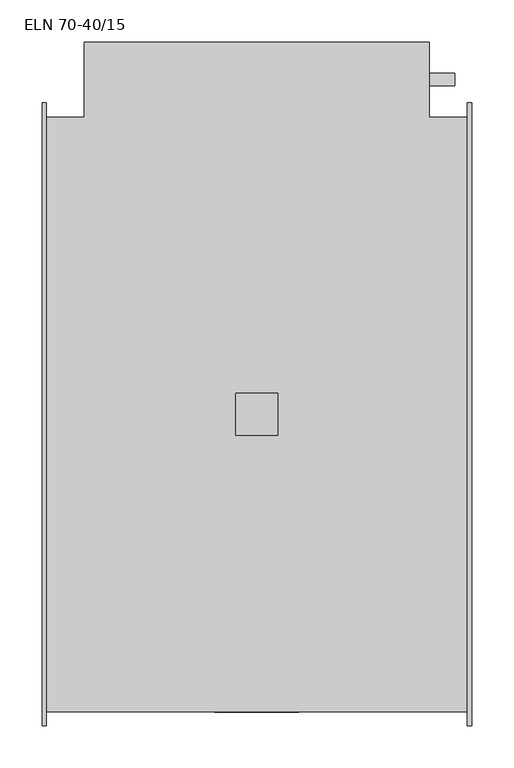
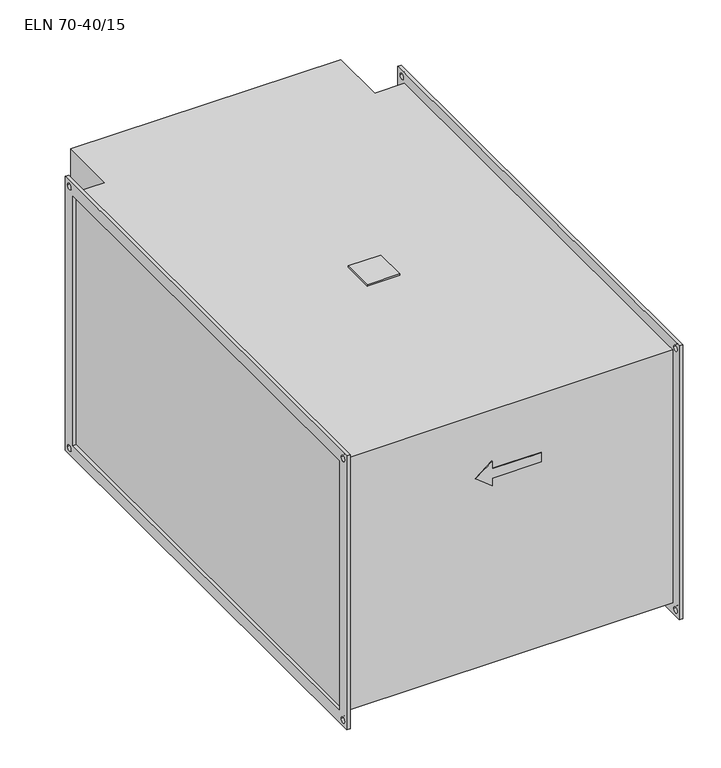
"""IFC4 building model written with IfcOpenShell, lengths in millimetres: proxy geometry, KORF_Нагреватель_Электрический_ELN : ELN 70-40/15."""

import ifcopenshell
import ifcopenshell.guid

model = None  # the IFC model being written
_history = None  # IfcOwnerHistory: only IFC2X3 demands one
_inside = {}  # id of a spatial element -> (the spatial element, [elements in it])
_under = {}  # id of a project, library or spatial element -> (it, [spatial elements below it])
_declared = {}  # id of a project -> (the project, [libraries it declares])
_typed = {}  # id of a type object -> (the type object, [elements of that type])
_made_of = {}  # id of a material, layer set ... -> (it, [elements and type objects made of it])


def new_model(schema):
    """Start an empty IFC model of exactly this schema.

    Asked for "IFC4X3", IfcOpenShell would pick the latest addendum, in which some entities
    have other attributes; the version numbers below select the first issue.
    IFC2X3 requires an IfcOwnerHistory on every rooted entity: one is made here for all.
    """
    global model, _history
    if schema == "IFC4X3":
        model = ifcopenshell.file(schema_version=(4, 3, 0, 0))
    else:
        model = ifcopenshell.file(schema=schema)
    _inside.clear()
    _under.clear()
    _declared.clear()
    _typed.clear()
    _made_of.clear()
    _history = None
    if model.schema == "IFC2X3":
        org = make("IfcOrganization", Name="unknown")
        user = make(
            "IfcPersonAndOrganization",
            ThePerson=make("IfcPerson", FamilyName="unknown"),
            TheOrganization=org,
        )
        app = make(
            "IfcApplication",
            ApplicationDeveloper=org,
            Version="unknown",
            ApplicationFullName="unknown",
            ApplicationIdentifier="unknown",
        )
        _history = make(
            "IfcOwnerHistory",
            OwningUser=user,
            OwningApplication=app,
            ChangeAction="ADDED",
            CreationDate=0,
        )
    return model


def make(cls, **values):
    """One entity of the class cls with the attributes given. An attribute that is None is left unset."""
    return model.create_entity(
        cls, **{name: value for name, value in values.items() if value is not None}
    )


def rooted(cls, **values):
    """An entity with a GlobalId (a new one), such as an element, a storey or a relation."""
    return make(cls, GlobalId=ifcopenshell.guid.new(), OwnerHistory=_history, **values)


def si_unit(unit_type, name, prefix=None):
    """IfcSIUnit, for example si_unit("LENGTHUNIT", "METRE", prefix="MILLI")."""
    return make("IfcSIUnit", UnitType=unit_type, Prefix=prefix, Name=name)


def assignment(units):
    """IfcUnitAssignment: the units of a project."""
    return None if units is None else make("IfcUnitAssignment", Units=units)


def point(xyz):
    """IfcCartesianPoint."""
    return None if xyz is None else make("IfcCartesianPoint", Coordinates=xyz)


def direction(xyz):
    """IfcDirection."""
    return None if xyz is None else make("IfcDirection", DirectionRatios=xyz)


def frame(location, z_axis=None, x_axis=None):
    """IfcAxis2Placement3D, a coordinate frame: its origin and axes. An axis left out is left unset."""
    return make(
        "IfcAxis2Placement3D",
        Location=point(location),
        Axis=direction(z_axis),
        RefDirection=direction(x_axis),
    )


def frame_2d(location, x_axis=None):
    """IfcAxis2Placement2D, a coordinate frame in the plane: its origin and x axis."""
    return make(
        "IfcAxis2Placement2D", Location=point(location), RefDirection=direction(x_axis)
    )


def origin():
    """The frame at (0, 0, 0) with its axes left unset."""
    return frame((0.0, 0.0, 0.0))


def place(relative_to, where):
    """IfcLocalPlacement: puts the frame where relative to a parent placement (None: the world)."""
    return make(
        "IfcLocalPlacement", PlacementRelTo=relative_to, RelativePlacement=where
    )


def context(
    kind, dimensions, precision=None, world=None, true_north=None, identifier=None
):
    """IfcGeometricRepresentationContext, for example the 3D "Model" context."""
    return make(
        "IfcGeometricRepresentationContext",
        ContextIdentifier=identifier,
        ContextType=kind,
        CoordinateSpaceDimension=dimensions,
        Precision=precision,
        WorldCoordinateSystem=world,
        TrueNorth=true_north,
    )


def project(units=None, contexts=None):
    """IfcProject with its units and contexts."""
    return rooted(
        "IfcProject",
        Name="project",
        RepresentationContexts=contexts,
        UnitsInContext=assignment(units),
    )


def spatial(cls, under=None, at=None, **own):
    """A site, building, storey or space (cls), placed at a placement, below another one or the project."""
    s = rooted(cls, ObjectPlacement=at, **own)
    if under is not None:
        _under.setdefault(under.id(), (under, []))[1].append(s)
    return s


def polyline(points):
    """IfcPolyline through the points."""
    return make("IfcPolyline", Points=[point(p) for p in points])


def circle_curve(where, radius):
    """IfcCircle in the frame where."""
    return make("IfcCircle", Position=where, Radius=radius)


def trimmed(basis, trim1, trim2, sense, master):
    """IfcTrimmedCurve: the piece of a basis curve between two trims."""
    return make(
        "IfcTrimmedCurve",
        BasisCurve=basis,
        Trim1=trim1,
        Trim2=trim2,
        SenseAgreement=sense,
        MasterRepresentation=master,
    )


def segment(curve, same_sense, transition):
    """IfcCompositeCurveSegment."""
    return make(
        "IfcCompositeCurveSegment",
        Transition=transition,
        SameSense=same_sense,
        ParentCurve=curve,
    )


def composite_curve(segments, self_intersect=None):
    """IfcCompositeCurve: segments joined end to end."""
    return make("IfcCompositeCurve", Segments=segments, SelfIntersect=self_intersect)


def outline(outer, holes=None, kind="AREA"):
    """IfcArbitraryClosedProfileDef: a profile drawn as a closed curve; with holes, ...WithVoids."""
    if holes is None:
        return make("IfcArbitraryClosedProfileDef", ProfileType=kind, OuterCurve=outer)
    return make(
        "IfcArbitraryProfileDefWithVoids",
        ProfileType=kind,
        OuterCurve=outer,
        InnerCurves=holes,
    )


def extrude(swept, where, along, depth):
    """IfcExtrudedAreaSolid: the profile swept, set in the frame where, extruded along a direction by depth."""
    return make(
        "IfcExtrudedAreaSolid",
        SweptArea=swept,
        Position=where,
        ExtrudedDirection=direction(along),
        Depth=depth,
    )


def shape(context_of_items, identifier, shape_type, items):
    """IfcShapeRepresentation: the items that make up one representation, for example the "Body"."""
    return make(
        "IfcShapeRepresentation",
        ContextOfItems=context_of_items,
        RepresentationIdentifier=identifier,
        RepresentationType=shape_type,
        Items=items,
    )


def source(mapping_origin, context_of_items, identifier, shape_type, items):
    """IfcRepresentationMap: a shape defined once, which mapped items show again and again."""
    return make(
        "IfcRepresentationMap",
        MappingOrigin=mapping_origin,
        MappedRepresentation=shape(context_of_items, identifier, shape_type, items),
    )


def transform(
    local_origin,
    x_axis=None,
    y_axis=None,
    z_axis=None,
    scale=None,
    scale2=None,
    scale3=None,
    uniform=True,
):
    """IfcCartesianTransformationOperator3D, or its non-uniform kind. x_axis, y_axis, z_axis: its Axis1, 2, 3."""
    if uniform:
        return make(
            "IfcCartesianTransformationOperator3D",
            Axis1=direction(x_axis),
            Axis2=direction(y_axis),
            LocalOrigin=point(local_origin),
            Scale=scale,
            Axis3=direction(z_axis),
        )
    return make(
        "IfcCartesianTransformationOperator3DnonUniform",
        Axis1=direction(x_axis),
        Axis2=direction(y_axis),
        LocalOrigin=point(local_origin),
        Scale=scale,
        Axis3=direction(z_axis),
        Scale2=scale2,
        Scale3=scale3,
    )


def mapped(mapping_source, mapping_target):
    """IfcMappedItem: shows the shape of a source again, moved by a transform."""
    return make(
        "IfcMappedItem", MappingSource=mapping_source, MappingTarget=mapping_target
    )


def made_of(thing, what):
    """Note that an element or type object is made of a material, layer set ...; save() writes the relation."""
    if what is not None:
        _made_of.setdefault(what.id(), (what, []))[1].append(thing)
    return thing


def element(
    cls,
    number,
    at=None,
    inside=None,
    cuts=None,
    type_object=None,
    material=None,
    context=None,
    identifier="Body",
    shape_type=None,
    held_by="IfcProductDefinitionShape",
    body=None,
    shapes=None,
    **own,
):
    """One element of the class cls, such as IfcWall. Its Tag is "e" and its number.

    at: its placement. inside: the storey or other place that contains it. cuts: it is an
    opening in that element (IfcRelVoidsElement). A single representation is given by context,
    identifier, shape_type and body (its items); several are given by shapes. held_by: the class
    of the entity that holds the representations. save() writes the other relations.
    """
    e = rooted(cls, Tag="e%d" % number, ObjectPlacement=at, **own)
    if body is not None:
        shapes = [shape(context, identifier, shape_type, body)]
    if shapes is not None:
        e.Representation = make(held_by, Representations=shapes)
    if inside is not None:
        _inside.setdefault(inside.id(), (inside, []))[1].append(e)
    if cuts is not None:
        rooted(
            "IfcRelVoidsElement", RelatingBuildingElement=cuts, RelatedOpeningElement=e
        )
    if type_object is not None:
        _typed.setdefault(type_object.id(), (type_object, []))[1].append(e)
    return made_of(e, material)


def aggregate(whole, parts):
    """IfcRelAggregates: a whole, such as a stair, and the parts it consists of."""
    return rooted("IfcRelAggregates", RelatingObject=whole, RelatedObjects=parts)


def save(model, path):
    """Write the relations noted so far, then the file.

    IfcRelAggregates (storeys below a building ...), IfcRelContainedInSpatialStructure (elements
    in a storey), IfcRelDefinesByType, IfcRelAssociatesMaterial and IfcRelDeclares: one each for
    every whole, place, type object, material and project.
    """
    for whole, parts in _under.values():
        aggregate(whole, parts)
    for where, things in _inside.values():
        rooted(
            "IfcRelContainedInSpatialStructure",
            RelatedElements=things,
            RelatingStructure=where,
        )
    for kind, things in _typed.values():
        rooted("IfcRelDefinesByType", RelatedObjects=things, RelatingType=kind)
    for what, things in _made_of.values():
        rooted("IfcRelAssociatesMaterial", RelatedObjects=things, RelatingMaterial=what)
    for by, libraries in _declared.values():
        rooted("IfcRelDeclares", RelatingContext=by, RelatedDefinitions=libraries)
    model.write(path)


def eln_70_40_15_d8b5ab56(model_context):
    return source(origin(), model_context, "Body", "SweptSolid", [
        extrude(outline(polyline([(230.0, -25.0), (230.0, 25.0), (280.0, 25.0), (280.0, -25.0), (230.0, -25.0)])), frame((0.0, 0.0, 203.0), z_axis=(0.0, 0.0, 1.0), x_axis=(1.0, 0.0, 0.0)), (0.0, 0.0, 1.0), 2.0),
        extrude(outline(composite_curve([segment(trimmed(circle_curve(frame_2d((397.5, -101.5)), 7.5), [point((390.0, -101.5))], [point((405.0, -101.5))], False, "CARTESIAN"), True, "CONTINUOUS"), segment(trimmed(circle_curve(frame_2d((397.5, -101.5)), 7.5), [point((405.0, -101.5))], [point((390.0, -101.5))], False, "CARTESIAN"), True, "CONTINUOUS")], self_intersect=False)), frame((460.0, 0.0, 0.0), z_axis=(1.0, 0.0, 0.0), x_axis=(0.0, 1.0, 0.0)), (0.0, 0.0, 1.0), 30.0),
        extrude(outline(composite_curve([segment(trimmed(circle_curve(frame_2d((397.5, -81.5)), 7.5), [point((390.0, -81.5))], [point((405.0, -81.5))], False, "CARTESIAN"), True, "CONTINUOUS"), segment(trimmed(circle_curve(frame_2d((397.5, -81.5)), 7.5), [point((405.0, -81.5))], [point((390.0, -81.5))], False, "CARTESIAN"), True, "CONTINUOUS")], self_intersect=False)), frame((460.0, 0.0, 0.0), z_axis=(1.0, 0.0, 0.0), x_axis=(0.0, 1.0, 0.0)), (0.0, 0.0, 1.0), 30.0),
        extrude(outline(composite_curve([segment(trimmed(circle_curve(frame_2d((397.5, -121.5)), 7.5), [point((390.0, -121.5))], [point((405.0, -121.5))], False, "CARTESIAN"), True, "CONTINUOUS"), segment(trimmed(circle_curve(frame_2d((397.5, -121.5)), 7.5), [point((405.0, -121.5))], [point((390.0, -121.5))], False, "CARTESIAN"), True, "CONTINUOUS")], self_intersect=False)), frame((460.0, 0.0, 0.0), z_axis=(1.0, 0.0, 0.0), x_axis=(0.0, 1.0, 0.0)), (0.0, 0.0, 1.0), 30.0),
        extrude(outline(polyline([(121.5, 230.0), (101.5, 205.0), (81.5, 230.0), (94.0, 230.0), (94.0, 305.0), (109.0, 305.0), (109.0, 230.0), (121.5, 230.0)])), frame((0.0, -354.0, 0.0), z_axis=(0.0, 1.0, 0.0), x_axis=(0.0, 0.0, 1.0)), (0.0, 0.0, 1.0), 1.0),
        extrude(outline(polyline([(505.0, 353.0), (505.0, -353.0), (5.0, -353.0), (5.0, 353.0), (50.0, 353.0), (50.0, 442.0), (460.0, 442.0), (460.0, 353.0), (505.0, 353.0)])), frame((0.0, 0.0, -203.0), z_axis=(0.0, 0.0, 1.0), x_axis=(1.0, 0.0, 0.0)), (0.0, 0.0, 1.0), 406.0),
        extrude(outline(polyline([(-370.0, 220.0), (370.0, 220.0), (370.0, -220.0), (-370.0, -220.0), (-370.0, 220.0)]), holes=[polyline([(-350.0, 200.0), (-350.0, -200.0), (350.0, -200.0), (350.0, 200.0), (-350.0, 200.0)]), composite_curve([segment(trimmed(circle_curve(frame_2d((360.0, 210.0)), 4.5), [point((355.5, 210.0))], [point((364.5, 210.0))], True, "CARTESIAN"), True, "CONTINUOUS"), segment(trimmed(circle_curve(frame_2d((360.0, 210.0)), 4.5), [point((364.5, 210.0))], [point((355.5, 210.0))], True, "CARTESIAN"), True, "CONTINUOUS")], self_intersect=False), composite_curve([segment(trimmed(circle_curve(frame_2d((-360.0, 210.0)), 4.5), [point((-364.5, 210.0))], [point((-355.5, 210.0))], True, "CARTESIAN"), True, "CONTINUOUS"), segment(trimmed(circle_curve(frame_2d((-360.0, 210.0)), 4.5), [point((-355.5, 210.0))], [point((-364.5, 210.0))], True, "CARTESIAN"), True, "CONTINUOUS")], self_intersect=False), composite_curve([segment(trimmed(circle_curve(frame_2d((-360.0, -210.0)), 4.5), [point((-364.5, -210.0))], [point((-355.5, -210.0))], True, "CARTESIAN"), True, "CONTINUOUS"), segment(trimmed(circle_curve(frame_2d((-360.0, -210.0)), 4.5), [point((-355.5, -210.0))], [point((-364.5, -210.0))], True, "CARTESIAN"), True, "CONTINUOUS")], self_intersect=False), composite_curve([segment(trimmed(circle_curve(frame_2d((360.0, -210.0)), 4.5), [point((355.5, -210.0))], [point((364.5, -210.0))], True, "CARTESIAN"), True, "CONTINUOUS"), segment(trimmed(circle_curve(frame_2d((360.0, -210.0)), 4.5), [point((364.5, -210.0))], [point((355.5, -210.0))], True, "CARTESIAN"), True, "CONTINUOUS")], self_intersect=False)]), frame((505.0, 0.0, 0.0), z_axis=(1.0, 0.0, 0.0), x_axis=(0.0, 1.0, 0.0)), (0.0, 0.0, 1.0), 5.0),
        extrude(outline(polyline([(-370.0, 220.0), (370.0, 220.0), (370.0, -220.0), (-370.0, -220.0), (-370.0, 220.0)]), holes=[polyline([(-350.0, 200.0), (-350.0, -200.0), (350.0, -200.0), (350.0, 200.0), (-350.0, 200.0)]), composite_curve([segment(trimmed(circle_curve(frame_2d((360.0, 210.0)), 4.5), [point((355.5, 210.0))], [point((364.5, 210.0))], True, "CARTESIAN"), True, "CONTINUOUS"), segment(trimmed(circle_curve(frame_2d((360.0, 210.0)), 4.5), [point((364.5, 210.0))], [point((355.5, 210.0))], True, "CARTESIAN"), True, "CONTINUOUS")], self_intersect=False), composite_curve([segment(trimmed(circle_curve(frame_2d((-360.0, 210.0)), 4.5), [point((-364.5, 210.0))], [point((-355.5, 210.0))], True, "CARTESIAN"), True, "CONTINUOUS"), segment(trimmed(circle_curve(frame_2d((-360.0, 210.0)), 4.5), [point((-355.5, 210.0))], [point((-364.5, 210.0))], True, "CARTESIAN"), True, "CONTINUOUS")], self_intersect=False), composite_curve([segment(trimmed(circle_curve(frame_2d((-360.0, -210.0)), 4.5), [point((-364.5, -210.0))], [point((-355.5, -210.0))], True, "CARTESIAN"), True, "CONTINUOUS"), segment(trimmed(circle_curve(frame_2d((-360.0, -210.0)), 4.5), [point((-355.5, -210.0))], [point((-364.5, -210.0))], True, "CARTESIAN"), True, "CONTINUOUS")], self_intersect=False), composite_curve([segment(trimmed(circle_curve(frame_2d((360.0, -210.0)), 4.5), [point((355.5, -210.0))], [point((364.5, -210.0))], True, "CARTESIAN"), True, "CONTINUOUS"), segment(trimmed(circle_curve(frame_2d((360.0, -210.0)), 4.5), [point((364.5, -210.0))], [point((355.5, -210.0))], True, "CARTESIAN"), True, "CONTINUOUS")], self_intersect=False)]), frame((0.0, 0.0, 0.0), z_axis=(1.0, 0.0, 0.0), x_axis=(0.0, 1.0, 0.0)), (0.0, 0.0, 1.0), 5.0),
    ])


if __name__ == "__main__":
    model = new_model("IFC4")
    model_context = context("Model", 3, world=origin())
    ifc_project = project(units=[si_unit("LENGTHUNIT", "METRE", prefix="MILLI")], contexts=[model_context])
    site = spatial("IfcSite", under=ifc_project)
    building = spatial("IfcBuilding", under=site)
    placement = place(None, origin())
    eln_70_40_15_shape = eln_70_40_15_d8b5ab56(model_context)
    element("IfcBuildingElementProxy", 1, Name="KORF_Нагреватель_Электрический_ELN : ELN 70-40/15", ObjectType="KORF_Нагреватель_Электрический_ELN : ELN 70-40/15", at=placement, inside=building, context=model_context, shape_type="MappedRepresentation", body=[
        mapped(eln_70_40_15_shape, transform((0.0, 0.0, 0.0), x_axis=(1.0, 0.0, 0.0), y_axis=(0.0, 1.0, 0.0), z_axis=(0.0, 0.0, 1.0))),
    ])
    save(model, "model.ifc")
